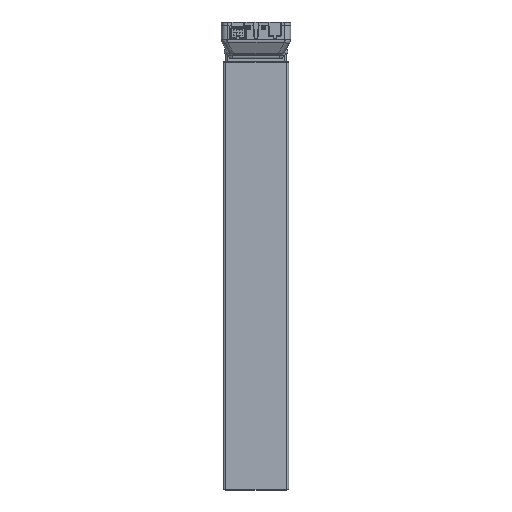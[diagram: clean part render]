
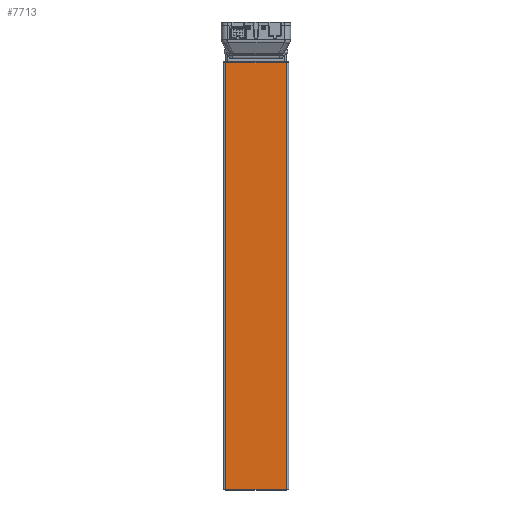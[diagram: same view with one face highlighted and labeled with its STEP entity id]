
A CAD part, top view. The second image highlights one B-rep face of the part: STEP entity #7713.
In plain terms, the highlighted planar face has unit normal (0, 0, 1).
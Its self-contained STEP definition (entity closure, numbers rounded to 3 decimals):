
#1511=DIRECTION('',(-1.,0.,0.));
#1512=VECTOR('',#1511,84.);
#1513=CARTESIAN_POINT('',(42.,0.,30.));
#1514=LINE('',#1513,#1512);
#1520=DIRECTION('',(-1.,0.,0.));
#1521=VECTOR('',#1520,84.);
#1522=CARTESIAN_POINT('',(42.,590.,30.));
#1523=LINE('',#1522,#1521);
#1567=DIRECTION('',(0.,1.,0.));
#1568=VECTOR('',#1567,590.);
#1569=CARTESIAN_POINT('',(42.,0.,30.));
#1570=LINE('',#1569,#1568);
#1603=DIRECTION('',(0.,-1.,0.));
#1604=VECTOR('',#1603,590.);
#1605=CARTESIAN_POINT('',(-42.,590.,30.));
#1606=LINE('',#1605,#1604);
#5966=CARTESIAN_POINT('',(42.,590.,30.));
#5968=VERTEX_POINT('',#5966);
#5969=CARTESIAN_POINT('',(-42.,590.,30.));
#5970=VERTEX_POINT('',#5969);
#5985=CARTESIAN_POINT('',(42.,0.,30.));
#5986=VERTEX_POINT('',#5985);
#5989=CARTESIAN_POINT('',(-42.,0.,30.));
#5990=VERTEX_POINT('',#5989);
#7699=CARTESIAN_POINT('',(42.,0.,30.));
#7700=DIRECTION('',(0.,0.,1.));
#7701=DIRECTION('',(-1.,0.,0.));
#7702=AXIS2_PLACEMENT_3D('',#7699,#7700,#7701);
#7703=PLANE('',#7702);
#7705=ORIENTED_EDGE('',*,*,#7704,.F.);
#7707=ORIENTED_EDGE('',*,*,#7706,.F.);
#7708=ORIENTED_EDGE('',*,*,#7670,.T.);
#7710=ORIENTED_EDGE('',*,*,#7709,.F.);
#7711=EDGE_LOOP('',(#7705,#7707,#7708,#7710));
#7712=FACE_OUTER_BOUND('',#7711,.F.);
#7670=EDGE_CURVE('',#5986,#5990,#1514,.T.);
#7704=EDGE_CURVE('',#5968,#5970,#1523,.T.);
#7706=EDGE_CURVE('',#5986,#5968,#1570,.T.);
#7709=EDGE_CURVE('',#5970,#5990,#1606,.T.);
#7713=ADVANCED_FACE('',(#7712),#7703,.T.);
